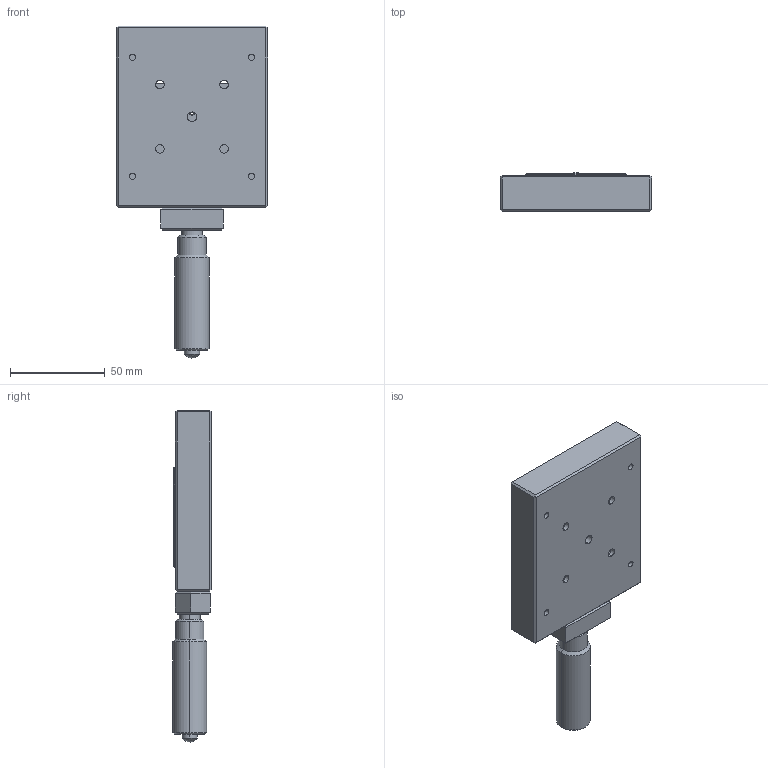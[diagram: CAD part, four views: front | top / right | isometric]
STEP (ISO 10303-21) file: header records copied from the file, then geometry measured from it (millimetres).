
FILE_DESCRIPTION (( 'STEP AP214' ), '1' );
FILE_NAME ('PT120-25-53.STEP', '2022-09-04T08:25:06', ( '' ), ( '' ), 'SwSTEP 2.0', 'SolidWorks 2017', '' );
FILE_SCHEMA (( 'AUTOMOTIVE_DESIGN' ));
Length unit declared in the file: millimetre
Products named in the file (1): PT120-25-53
Bounding box: 80 x 20.5 x 175.65 mm (x, y, z)
Surface area: 43577.5 mm2 (no closed solid volume)
Topology: 0 solids, 9 shells, 241 faces, 645 edges, 401 vertices
Faces by surface type: plane 118, cylinder 88, cone 34, sphere 1
Entity records: 7379 total; most frequent: DIRECTION 1341, CARTESIAN_POINT 1281, ORIENTED_EDGE 1139, EDGE_CURVE 634, AXIS2_PLACEMENT_3D 471, LINE 399, VECTOR 399, VERTEX_POINT 395
